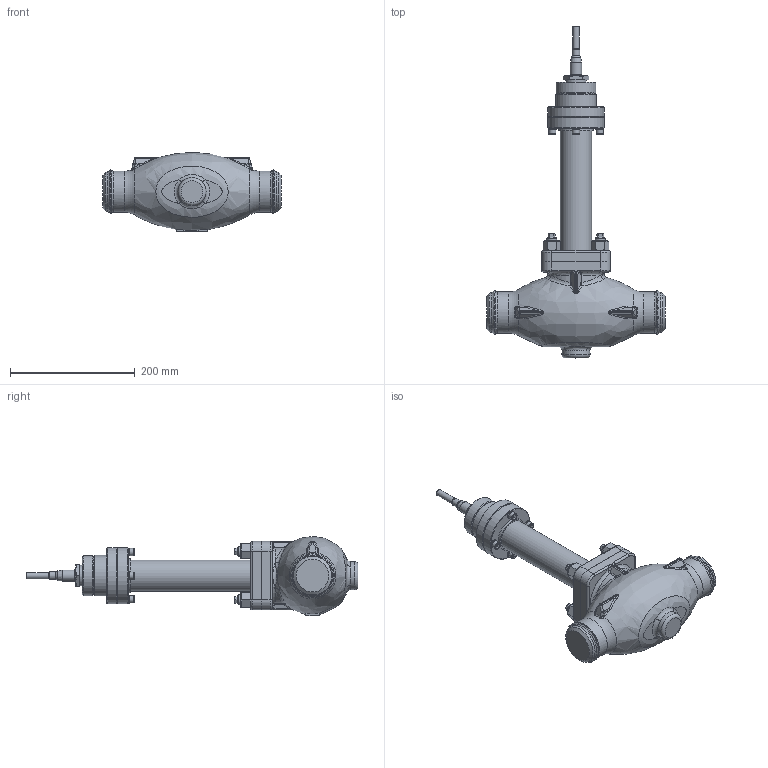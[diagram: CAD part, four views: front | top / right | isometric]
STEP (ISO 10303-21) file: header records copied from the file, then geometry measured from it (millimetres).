
FILE_DESCRIPTION(/* description */ (''),/* implementation_level */ '2;1');
FILE_NAME(/* name */ 'CV3xx_NPS_2_privarovaci_vlnovec.stp',/* time_stamp */ '2015-08-11T10:08:32+02:00',/* author */ (''),/* organization */ (''),/* preprocessor_version */ 'ST-DEVELOPER v15',/* originating_system */ 'SIEMENS PLM Software NX 8.5',/* authorisation */ '');
FILE_SCHEMA (('AP203_CONFIGURATION_CONTROLLED_3D_DESIGN_OF_MECHANICAL_PARTS_AND_ASSEMBLIES_MIM_LF { 1 0 10303 403 2 1 2}'));
Length unit declared in the file: millimetre
Products named in the file (1): adam1354300Cul88
Bounding box: 286 x 533 x 126.94 mm (x, y, z)
Volume: 3388099.4 mm3; surface area: 225824.8 mm2
Topology: 1 solids, 1 shells, 543 faces, 1275 edges, 762 vertices
Faces by surface type: plane 184, cylinder 125, cone 113, bspline 78, torus 43
Full cylindrical faces by diameter (mm): 7 x4, 7.76 x4, 9 x4, 10 x1, 11.64 x4, 12 x1, 12.5 x4, 16 x12, 18 x5, 24 x8, 27 x1, 33 x1, 45 x1, 50 x1, 50.3 x2, 55 x1, 58 x1, 61.6 x1, 64 x1, 65 x1, 66 x2, 70 x2, 86 x1, 90 x2
Entity records: 16476 total; most frequent: CARTESIAN_POINT 5474, DIRECTION 2193, ORIENTED_EDGE 2148, EDGE_CURVE 1074, AXIS2_PLACEMENT_3D 946, EDGE_LOOP 732, VERTEX_POINT 698, ADVANCED_FACE 543
